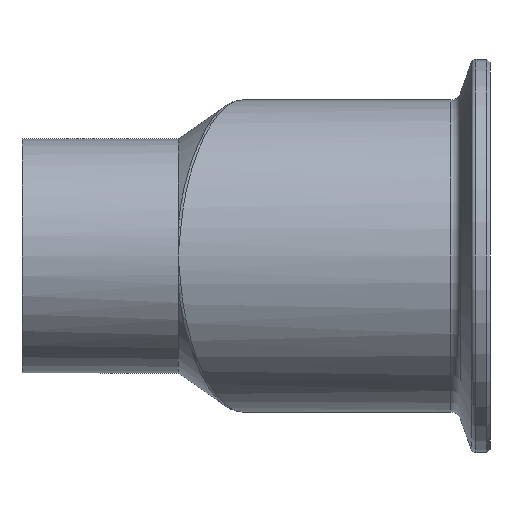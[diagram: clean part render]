
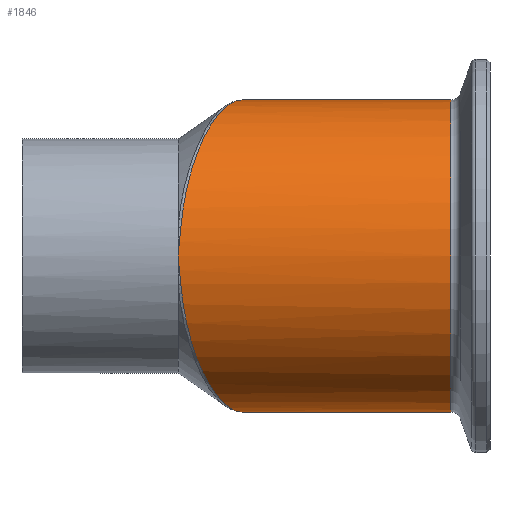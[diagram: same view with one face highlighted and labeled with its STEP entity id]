
A CAD part, front view. The second image highlights one B-rep face of the part: STEP entity #1846.
In plain terms, the highlighted cylindrical face has radius 25.4 mm (diameter 50.8 mm), a partial arc.
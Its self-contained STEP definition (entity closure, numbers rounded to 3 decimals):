
#45 = CARTESIAN_POINT ( 'NONE',  ( -10.033, -20.148, -15.536 ) ) ;
#62 = CARTESIAN_POINT ( 'NONE',  ( -10.42, -21.017, -14.342 ) ) ;
#72 = CARTESIAN_POINT ( 'NONE',  ( -10.941, -22.17, -12.418 ) ) ;
#76 = VERTEX_POINT ( 'NONE', #358 ) ;
#84 = CARTESIAN_POINT ( 'NONE',  ( -11.105, -22.531, -11.751 ) ) ;
#93 = CARTESIAN_POINT ( 'NONE',  ( -11.407, -23.187, -10.396 ) ) ;
#122 = ORIENTED_EDGE ( 'NONE', *, *, #1560, .T. ) ;
#210 = CARTESIAN_POINT ( 'NONE',  ( -11.545, -23.484, -9.706 ) ) ;
#222 = CARTESIAN_POINT ( 'NONE',  ( -9.406, -18.702, -17.203 ) ) ;
#232 = CIRCLE ( 'NONE', #1452, 25.4 ) ;
#233 = CARTESIAN_POINT ( 'NONE',  ( -11.919, -24.284, -7.596 ) ) ;
#358 = CARTESIAN_POINT ( 'NONE',  ( -12.248, -24.976, -4.623 ) ) ;
#359 = CARTESIAN_POINT ( 'NONE',  ( -8.738, -17.134, -18.765 ) ) ;
#371 = CARTESIAN_POINT ( 'NONE',  ( -8.508, -16.586, -19.251 ) ) ;
#380 = EDGE_CURVE ( 'NONE', #76, #1099, #1774, .T. ) ;
#383 = CARTESIAN_POINT ( 'NONE',  ( -7.805, -14.892, -20.628 ) ) ;
#390 = CARTESIAN_POINT ( 'NONE',  ( -7.32, -13.697, -21.44 ) ) ;
#416 = CARTESIAN_POINT ( 'NONE',  ( -6.571, -11.804, -22.502 ) ) ;
#429 = CARTESIAN_POINT ( 'NONE',  ( -12.115, -24.695, -6.138 ) ) ;
#466 = CARTESIAN_POINT ( 'NONE',  ( -12.248, -24.976, 4.623 ) ) ;
#474 = CARTESIAN_POINT ( 'NONE',  ( -12.383, -25.258, 3.097 ) ) ;
#482 = CARTESIAN_POINT ( 'NONE',  ( -12.7, -25.4, 0. ) ) ;
#494 = FACE_OUTER_BOUND ( 'NONE', #1616, .T. ) ;
#501 = CARTESIAN_POINT ( 'NONE',  ( -2.732, -1.44, 25.369 ) ) ;
#508 = CARTESIAN_POINT ( 'NONE',  ( -2.481, -0.72, 25.4 ) ) ;
#514 = CARTESIAN_POINT ( 'NONE',  ( -2.232, 0., 25.4 ) ) ;
#524 = CARTESIAN_POINT ( 'NONE',  ( -3.24, -2.879, 25.247 ) ) ;
#528 = CARTESIAN_POINT ( 'NONE',  ( -3.498, -3.6, 25.154 ) ) ;
#531 = CARTESIAN_POINT ( 'NONE',  ( -4.273, -5.747, 24.784 ) ) ;
#549 = EDGE_CURVE ( 'NONE', #1060, #594, #1316, .T. ) ;
#551 = CARTESIAN_POINT ( 'NONE',  ( -4.786, -7.138, 24.418 ) ) ;
#552 = VERTEX_POINT ( 'NONE', #482 ) ;
#558 = DIRECTION ( 'NONE',  ( -1., 0., 0. ) ) ;
#576 = CARTESIAN_POINT ( 'NONE',  ( -5.807, -9.843, 23.459 ) ) ;
#577 = EDGE_CURVE ( 'NONE', #1138, #1099, #821, .T. ) ;
#578 = CARTESIAN_POINT ( 'NONE',  ( -6.315, -11.156, 22.865 ) ) ;
#582 = ORIENTED_EDGE ( 'NONE', *, *, #1420, .T. ) ;
#586 = CARTESIAN_POINT ( 'NONE',  ( -7.322, -13.702, 21.437 ) ) ;
#594 = VERTEX_POINT ( 'NONE', #805 ) ;
#601 = CARTESIAN_POINT ( 'NONE',  ( -7.809, -14.901, 20.621 ) ) ;
#615 = CARTESIAN_POINT ( 'NONE',  ( -8.741, -17.148, 18.794 ) ) ;
#620 = CARTESIAN_POINT ( 'NONE',  ( -9.187, -18.198, 17.782 ) ) ;
#636 = CARTESIAN_POINT ( 'NONE',  ( -9.714, -19.413, 16.384 ) ) ;
#641 = ORIENTED_EDGE ( 'NONE', *, *, #577, .F. ) ;
#642 = CARTESIAN_POINT ( 'NONE',  ( -9.818, -19.651, 16.098 ) ) ;
#648 = EDGE_CURVE ( 'NONE', #1138, #676, #232, .T. ) ;
#653 = CARTESIAN_POINT ( 'NONE',  ( -10.021, -20.113, 15.516 ) ) ;
#663 = CARTESIAN_POINT ( 'NONE',  ( -2.232, 0., 25.4 ) ) ;
#669 = CARTESIAN_POINT ( 'NONE',  ( -10.12, -20.338, 15.221 ) ) ;
#676 = VERTEX_POINT ( 'NONE', #1517 ) ;
#677 = CARTESIAN_POINT ( 'NONE',  ( -10.409, -20.99, 14.322 ) ) ;
#687 = CARTESIAN_POINT ( 'NONE',  ( -10.592, -21.398, 13.705 ) ) ;
#692 = CARTESIAN_POINT ( 'NONE',  ( -11.109, -22.541, 11.8 ) ) ;
#697 = CARTESIAN_POINT ( 'NONE',  ( -11.411, -23.197, 10.459 ) ) ;
#704 = CARTESIAN_POINT ( 'NONE',  ( -11.79, -24.007, 8.331 ) ) ;
#716 = CARTESIAN_POINT ( 'NONE',  ( -11.903, -24.248, 7.602 ) ) ;
#719 = CARTESIAN_POINT ( 'NONE',  ( -12.099, -24.661, 6.128 ) ) ;
#727 = CARTESIAN_POINT ( 'NONE',  ( -9.188, -18.195, -17.738 ) ) ;
#730 = CARTESIAN_POINT ( 'NONE',  ( -12.181, -24.835, 5.381 ) ) ;
#763 = CARTESIAN_POINT ( 'NONE',  ( -12.248, -24.976, -4.623 ) ) ;
#784 = CARTESIAN_POINT ( 'NONE',  ( -6.317, -11.154, -22.831 ) ) ;
#788 = B_SPLINE_CURVE_WITH_KNOTS ( 'NONE', 3,
 ( #466, #474, #1584, #1881 ),
 .UNSPECIFIED., .F., .F.,
 ( 4, 4 ),
 ( 0., 0.005 ),
 .UNSPECIFIED. ) ;
#792 = VECTOR ( 'NONE', #1711, 1000. ) ;
#797 = DIRECTION ( 'NONE',  ( -1., 0., 0. ) ) ;
#802 = CARTESIAN_POINT ( 'NONE',  ( -47.684, 0., 25.4 ) ) ;
#805 = CARTESIAN_POINT ( 'NONE',  ( -12.248, -24.976, 4.623 ) ) ;
#807 = ORIENTED_EDGE ( 'NONE', *, *, #648, .T. ) ;
#814 = CARTESIAN_POINT ( 'NONE',  ( -5.806, -9.831, -23.431 ) ) ;
#821 = LINE ( 'NONE', #1120, #870 ) ;
#824 = CARTESIAN_POINT ( 'NONE',  ( -5.55, -9.162, -23.701 ) ) ;
#837 = CARTESIAN_POINT ( 'NONE',  ( -4.782, -7.129, -24.422 ) ) ;
#870 = VECTOR ( 'NONE', #558, 1000. ) ;
#871 = CARTESIAN_POINT ( 'NONE',  ( -4.271, -5.741, -24.784 ) ) ;
#994 = CARTESIAN_POINT ( 'NONE',  ( -2.232, 0., -25.4 ) ) ;
#1046 = CARTESIAN_POINT ( 'NONE',  ( 31.727, 0., -25.4 ) ) ;
#1060 = VERTEX_POINT ( 'NONE', #663 ) ;
#1098 = B_SPLINE_CURVE_WITH_KNOTS ( 'NONE', 3,
 ( #1938, #1934, #1981, #1987 ),
 .UNSPECIFIED., .F., .F.,
 ( 4, 4 ),
 ( 0., 0.005 ),
 .UNSPECIFIED. ) ;
#1099 = VERTEX_POINT ( 'NONE', #994 ) ;
#1115 = ORIENTED_EDGE ( 'NONE', *, *, #1901, .T. ) ;
#1120 = CARTESIAN_POINT ( 'NONE',  ( -47.684, 0., -25.4 ) ) ;
#1138 = VERTEX_POINT ( 'NONE', #1046 ) ;
#1220 = CARTESIAN_POINT ( 'NONE',  ( -12.248, -24.976, 4.623 ) ) ;
#1308 = CARTESIAN_POINT ( 'NONE',  ( -3.502, -3.612, -25.152 ) ) ;
#1316 = B_SPLINE_CURVE_WITH_KNOTS ( 'NONE', 3,
 ( #514, #508, #501, #524, #528, #531, #551, #576, #578, #586, #601, #615, #620, #636, #642, #653, #669, #677, #687, #692, #697, #704, #716, #719, #730, #1220 ),
 .UNSPECIFIED., .F., .F.,
 ( 4, 2, 2, 2, 2, 2, 2, 2, 2, 2, 2, 2, 4 ),
 ( 0.118, 0.12, 0.123, 0.127, 0.132, 0.136, 0.141, 0.142, 0.143, 0.145, 0.15, 0.152, 0.155 ),
 .UNSPECIFIED. ) ;
#1321 = CARTESIAN_POINT ( 'NONE',  ( -3.246, -2.894, -25.245 ) ) ;
#1329 = CARTESIAN_POINT ( 'NONE',  ( -2.734, -1.444, -25.369 ) ) ;
#1362 = CARTESIAN_POINT ( 'NONE',  ( -2.481, -0.721, -25.4 ) ) ;
#1398 = DIRECTION ( 'NONE',  ( 0., 0., 1. ) ) ;
#1403 = CARTESIAN_POINT ( 'NONE',  ( -2.232, 0., -25.4 ) ) ;
#1420 = EDGE_CURVE ( 'NONE', #552, #76, #1098, .T. ) ;
#1452 = AXIS2_PLACEMENT_3D ( 'NONE', #1482, #1486, #1492 ) ;
#1482 = CARTESIAN_POINT ( 'NONE',  ( 31.727, 0., 0. ) ) ;
#1486 = DIRECTION ( 'NONE',  ( -1., 0., 0. ) ) ;
#1492 = DIRECTION ( 'NONE',  ( 0., 0., 1. ) ) ;
#1517 = CARTESIAN_POINT ( 'NONE',  ( 31.727, 0., 25.4 ) ) ;
#1560 = EDGE_CURVE ( 'NONE', #594, #552, #788, .T. ) ;
#1568 = ORIENTED_EDGE ( 'NONE', *, *, #380, .T. ) ;
#1584 = CARTESIAN_POINT ( 'NONE',  ( -12.542, -25.4, 1.55 ) ) ;
#1616 = EDGE_LOOP ( 'NONE', ( #641, #807, #1115, #1907, #122, #582, #1568 ) ) ;
#1643 = CYLINDRICAL_SURFACE ( 'NONE', #1922, 25.4 ) ;
#1711 = DIRECTION ( 'NONE',  ( -1., 0., 0. ) ) ;
#1774 = B_SPLINE_CURVE_WITH_KNOTS ( 'NONE', 3,
 ( #763, #429, #233, #210, #93, #84, #72, #62, #45, #222, #727, #359, #371, #383, #390, #416, #784, #814, #824, #837, #871, #1308, #1321, #1329, #1362, #1403 ),
 .UNSPECIFIED., .F., .F.,
 ( 4, 2, 2, 2, 2, 2, 2, 2, 2, 2, 2, 2, 4 ),
 ( 0., 0.005, 0.007, 0.009, 0.014, 0.016, 0.018, 0.023, 0.025, 0.027, 0.032, 0.034, 0.037 ),
 .UNSPECIFIED. ) ;
#1846 = ADVANCED_FACE ( 'NONE', ( #494 ), #1643, .T. ) ;
#1853 = CARTESIAN_POINT ( 'NONE',  ( -47.684, 0., 0. ) ) ;
#1881 = CARTESIAN_POINT ( 'NONE',  ( -12.7, -25.4, 0. ) ) ;
#1901 = EDGE_CURVE ( 'NONE', #676, #1060, #1997, .T. ) ;
#1907 = ORIENTED_EDGE ( 'NONE', *, *, #549, .T. ) ;
#1922 = AXIS2_PLACEMENT_3D ( 'NONE', #1853, #797, #1398 ) ;
#1934 = CARTESIAN_POINT ( 'NONE',  ( -12.542, -25.4, -1.548 ) ) ;
#1938 = CARTESIAN_POINT ( 'NONE',  ( -12.7, -25.4, 0. ) ) ;
#1981 = CARTESIAN_POINT ( 'NONE',  ( -12.383, -25.258, -3.097 ) ) ;
#1987 = CARTESIAN_POINT ( 'NONE',  ( -12.248, -24.976, -4.623 ) ) ;
#1997 = LINE ( 'NONE', #802, #792 ) ;
